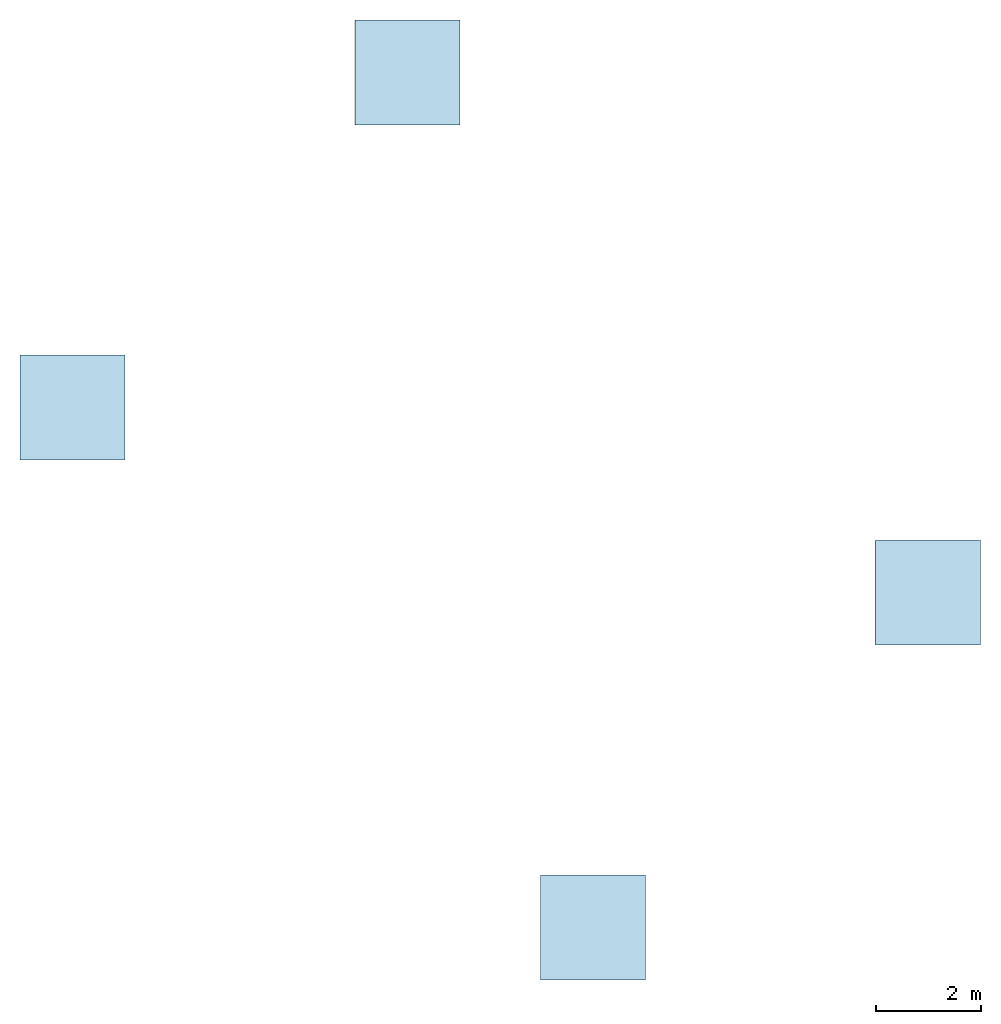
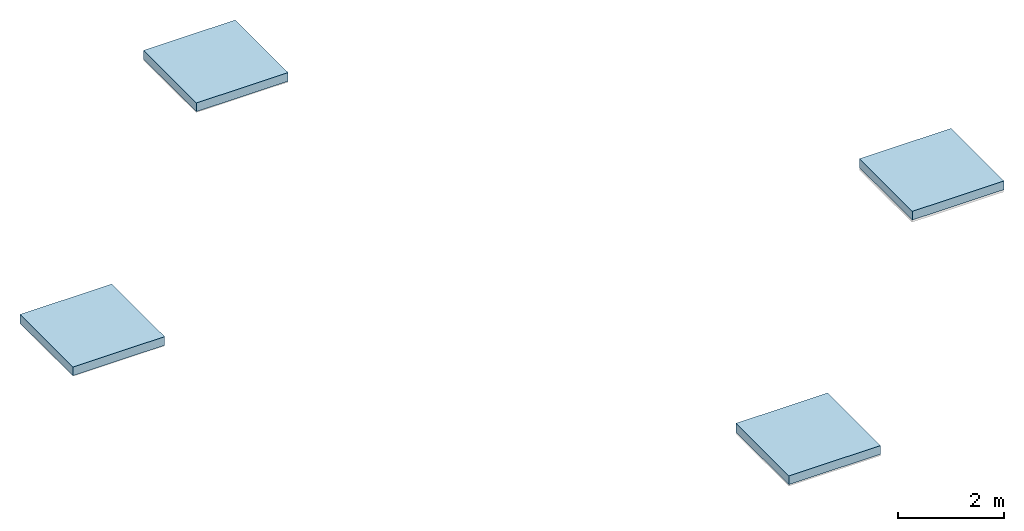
# One storey, part 1 of 2: 4 slabs.
"""IFC2X3 building model written with IfcOpenShell, lengths in millimetres."""

from ifc_helpers import new_model, entity, si_unit, converted_unit, derived_unit, direction, frame, frame_2d, origin, origin_2d_with_axis, place, context, subcontext, project, spatial, rectangle, extrude, material, layer, layer_set, layer_usage, element, save


model = new_model("IFC2X3")

# Units and contexts
model_context = context("Model", 3, precision=0.01, world=origin(), true_north=direction((6.12303176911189e-17, 1.0)))
context_of_model = context(None, 3, precision=0.01, world=origin(), true_north=direction((6.12303176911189e-17, 1.0)))
body_context = subcontext(model_context, "Body", "Model", "MODEL_VIEW")
ifc_project = project(units=[si_unit("LENGTHUNIT", "METRE", prefix="MILLI"), si_unit("AREAUNIT", "SQUARE_METRE"), si_unit("VOLUMEUNIT", "CUBIC_METRE"), converted_unit("PLANEANGLEUNIT", "DEGREE", entity("IfcRatioMeasure", 0.0174532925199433), si_unit("PLANEANGLEUNIT", "RADIAN"), dimensions=[0, 0, 0, 0, 0, 0, 0]), si_unit("MASSUNIT", "GRAM", prefix="KILO"), si_unit("TIMEUNIT", "SECOND"), si_unit("FREQUENCYUNIT", "HERTZ"), si_unit("THERMODYNAMICTEMPERATUREUNIT", "DEGREE_CELSIUS"), derived_unit("THERMALTRANSMITTANCEUNIT", [(si_unit("MASSUNIT", "GRAM", prefix="KILO"), 1), (si_unit("THERMODYNAMICTEMPERATUREUNIT", "KELVIN"), -1), (si_unit("TIMEUNIT", "SECOND"), -3)]), derived_unit("VOLUMETRICFLOWRATEUNIT", [(si_unit("LENGTHUNIT", "METRE"), 3), (si_unit("TIMEUNIT", "SECOND"), -1)]), si_unit("ELECTRICCURRENTUNIT", "AMPERE"), si_unit("ELECTRICVOLTAGEUNIT", "VOLT"), si_unit("POWERUNIT", "WATT"), si_unit("FORCEUNIT", "NEWTON", prefix="KILO"), si_unit("ILLUMINANCEUNIT", "LUX"), si_unit("LUMINOUSFLUXUNIT", "LUMEN"), si_unit("LUMINOUSINTENSITYUNIT", "CANDELA"), derived_unit("USERDEFINED", [(si_unit("MASSUNIT", "GRAM", prefix="KILO"), -1), (si_unit("LENGTHUNIT", "METRE"), -2), (si_unit("TIMEUNIT", "SECOND"), 3), (si_unit("LUMINOUSFLUXUNIT", "LUMEN"), 1)]), derived_unit("LINEARVELOCITYUNIT", [(si_unit("LENGTHUNIT", "METRE"), 1), (si_unit("TIMEUNIT", "SECOND"), -1)]), si_unit("PRESSUREUNIT", "PASCAL"), derived_unit("USERDEFINED", [(si_unit("LENGTHUNIT", "METRE"), -2), (si_unit("MASSUNIT", "GRAM", prefix="KILO"), 1), (si_unit("TIMEUNIT", "SECOND"), -2)])], contexts=[model_context, context_of_model])

# Site, building, storey
site_placement = place(None, origin())
site = spatial("IfcSite", under=ifc_project, at=site_placement, Name="Default", CompositionType="ELEMENT")
building_placement = place(site_placement, origin())
building = spatial("IfcBuilding", under=site, at=building_placement, CompositionType="ELEMENT")
storey_placement = place(building_placement, frame((0.0, 0.0, 1800.0)))
storey = spatial("IfcBuildingStorey", under=building, at=storey_placement, Name="01 eerste verdieping", CompositionType="ELEMENT", Elevation=1800.0)

# Slabs
ifc_material = material(Name="Concrete, Precast Panels")
ifc_layer = layer(ifc_material, 200.0)
ifc_layer_set = layer_set([ifc_layer], Name="Floor:Generic 200mm")
ifc_layer_usage_1 = layer_usage(ifc_layer_set, "AXIS3", "POSITIVE", 0.0)
slab_1_placement = place(storey_placement, origin())
element("IfcSlab", 1, at=slab_1_placement, inside=storey, material=ifc_layer_usage_1, Name="Floor:Generic 200mm", ObjectType="Floor:Generic 200mm", PredefinedType="FLOOR", context=body_context, shape_type="SweptSolid", body=[
    extrude(rectangle(XDim=2000.0, YDim=2000.0, at=origin_2d_with_axis()), frame((1000.0, 3515.0, 200.0), z_axis=(0.0, 0.0, -1.0), x_axis=(0.0, 1.0, 0.0)), (0.0, 0.0, 1.0), 200.0),
])
ifc_layer_usage_2 = layer_usage(ifc_layer_set, "AXIS3", "POSITIVE", 0.0)
slab_2_placement = place(storey_placement, origin())
element("IfcSlab", 2, at=slab_2_placement, inside=storey, material=ifc_layer_usage_2, Name="Floor:Generic 200mm", ObjectType="Floor:Generic 200mm", PredefinedType="FLOOR", context=body_context, shape_type="SweptSolid", body=[
    extrude(rectangle(XDim=2000.0, YDim=2000.0, at=frame_2d((0.0, -5.11590769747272e-13), x_axis=(1.0, 0.0))), frame((7368.9610306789, 9883.96103067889, 195.0), z_axis=(0.0, 0.0, -1.0), x_axis=(0.0, 1.0, 0.0)), (0.0, 0.0, 1.0), 200.0),
])
ifc_layer_usage_3 = layer_usage(ifc_layer_set, "AXIS3", "POSITIVE", 0.0)
slab_3_placement = place(storey_placement, origin())
element("IfcSlab", 3, at=slab_3_placement, inside=storey, material=ifc_layer_usage_3, Name="Floor:Generic 200mm", ObjectType="Floor:Generic 200mm", PredefinedType="FLOOR", context=body_context, shape_type="SweptSolid", body=[
    extrude(rectangle(XDim=2000.0, YDim=2000.0, at=origin_2d_with_axis()), frame((10899.4949366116, -6374.49493661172, 220.0), z_axis=(0.0, 0.0, -1.0), x_axis=(0.0, 1.0, 0.0)), (0.0, 0.0, 1.0), 200.0),
])
ifc_layer_usage_4 = layer_usage(ifc_layer_set, "AXIS3", "POSITIVE", 0.0)
slab_4_placement = place(storey_placement, origin())
element("IfcSlab", 4, at=slab_4_placement, inside=storey, material=ifc_layer_usage_4, Name="Floor:Generic 200mm", ObjectType="Floor:Generic 200mm", PredefinedType="FLOOR", context=body_context, shape_type="SweptSolid", body=[
    extrude(rectangle(XDim=2000.0, YDim=2000.0, at=origin_2d_with_axis()), frame((17270.9559672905, -3.03390593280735, 225.0), z_axis=(0.0, 0.0, -1.0), x_axis=(0.0, 1.0, 0.0)), (0.0, 0.0, 1.0), 200.0),
])

save(model, "model.ifc")
